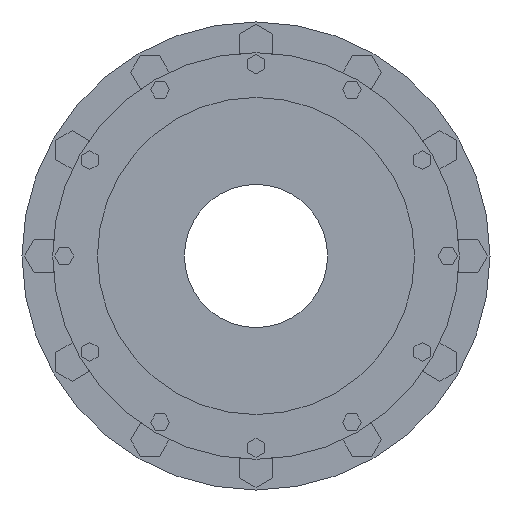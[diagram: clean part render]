
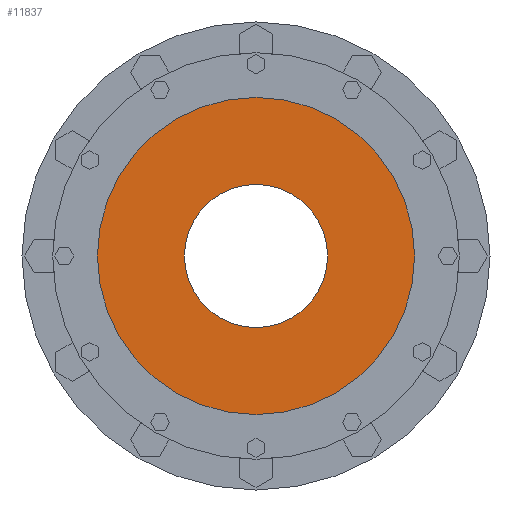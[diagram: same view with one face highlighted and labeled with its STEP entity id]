
A CAD part, left-side view. The second image highlights one B-rep face of the part: STEP entity #11837.
In plain terms, the highlighted planar face has unit normal (-1, 0, 0) as drawn and (1, 0, 0) by its records, which use the part's own axes.
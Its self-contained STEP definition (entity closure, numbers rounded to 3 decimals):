
#11661=CARTESIAN_POINT('',(-12.5,0.,0.));
#11662=DIRECTION('',(1.,0.,0.));
#11663=DIRECTION('',(0.,1.,0.));
#11664=AXIS2_PLACEMENT_3D('',#11661,#11662,#11663);
#11671=CARTESIAN_POINT('',(-12.5,0.,0.));
#11672=DIRECTION('',(-1.,0.,0.));
#11673=DIRECTION('',(0.,1.,0.));
#11674=AXIS2_PLACEMENT_3D('',#11671,#11672,#11673);
#11676=CARTESIAN_POINT('',(-12.5,0.,0.));
#11677=DIRECTION('',(1.,0.,0.));
#11678=DIRECTION('',(0.,1.,0.));
#11679=AXIS2_PLACEMENT_3D('',#11676,#11677,#11678);
#11755=CARTESIAN_POINT('',(-12.5,0.,0.));
#11756=DIRECTION('',(1.,0.,0.));
#11757=DIRECTION('',(0.,-1.,0.));
#11758=AXIS2_PLACEMENT_3D('',#11755,#11756,#11757);
#11782=CARTESIAN_POINT('',(-12.5,310.,0.));
#11784=VERTEX_POINT('',#11782);
#11786=CARTESIAN_POINT('',(-12.5,-310.,0.));
#11788=VERTEX_POINT('',#11786);
#11793=CARTESIAN_POINT('',(-12.5,140.,0.));
#11794=CARTESIAN_POINT('',(-12.5,-140.,0.));
#11795=VERTEX_POINT('',#11793);
#11796=VERTEX_POINT('',#11794);
#11821=CARTESIAN_POINT('',(-12.5,0.,0.));
#11822=DIRECTION('',(1.,0.,0.));
#11823=DIRECTION('',(0.,-1.,0.));
#11824=AXIS2_PLACEMENT_3D('',#11821,#11822,#11823);
#11825=PLANE('',#11824);
#11827=ORIENTED_EDGE('',*,*,#11826,.T.);
#11829=ORIENTED_EDGE('',*,*,#11828,.F.);
#11830=EDGE_LOOP('',(#11827,#11829));
#11831=FACE_OUTER_BOUND('',#11830,.F.);
#11832=ORIENTED_EDGE('',*,*,#11810,.T.);
#11834=ORIENTED_EDGE('',*,*,#11833,.T.);
#11835=EDGE_LOOP('',(#11832,#11834));
#11836=FACE_BOUND('',#11835,.F.);
#11837=ADVANCED_FACE('',(#11831,#11836),#11825,.T.);
#11665=CIRCLE('',#11664,140.);
#11675=CIRCLE('',#11674,310.);
#11680=CIRCLE('',#11679,310.);
#11759=CIRCLE('',#11758,140.);
#11810=EDGE_CURVE('',#11795,#11796,#11665,.T.);
#11826=EDGE_CURVE('',#11784,#11788,#11675,.T.);
#11828=EDGE_CURVE('',#11784,#11788,#11680,.T.);
#11833=EDGE_CURVE('',#11796,#11795,#11759,.T.);
